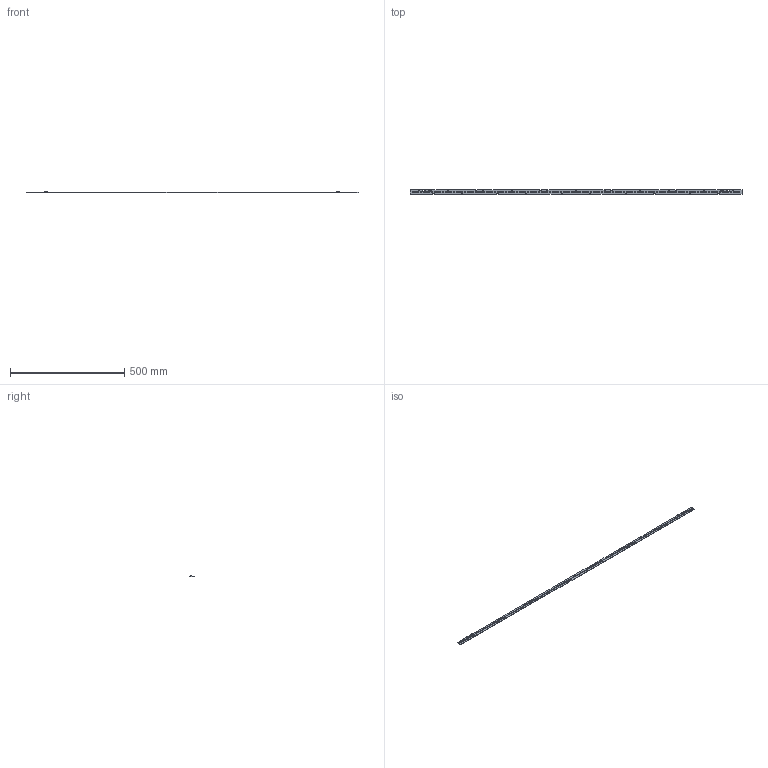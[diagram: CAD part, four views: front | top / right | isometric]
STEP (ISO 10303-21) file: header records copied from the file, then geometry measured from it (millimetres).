
FILE_DESCRIPTION(/* description */ (''),/* implementation_level */ '2;1');
FILE_NAME(/* name */ '5FT 5500lm HV FC Optical-20160920.stp',/* time_stamp */ '2016-09-20T10:33:37+08:00',/* author */ (''),/* organization */ (''),/* preprocessor_version */ 'ST-DEVELOPER v11',/* originating_system */ 'SIEMENS PLM Software NX 7.5',/* authorisation */ '');
FILE_SCHEMA (('CONFIG_CONTROL_DESIGN'));
Length unit declared in the file: millimetre
Products named in the file (4): LED_SMD_5630-LEMWS59T80_LGIT_20-01-15_0.93; CONNECTOR_SMD_MOLEX-1P_104188_19-06-15_4.25; 5FT 5500lm FC HV_PCB-20160825; 5FT 5500lm HV FC Optical-20160913
Assembly tree (123 placements, depth 2):
  5FT 5500lm HV FC Optical-20160913
    5FT 5500lm FC HV_PCB-20160825
    CONNECTOR_SMD_MOLEX-1P_104188_19-06-15_4.25  x2
    LED_SMD_5630-LEMWS59T80_LGIT_20-01-15_0.93  x120
Bounding box: 1450 x 20 x 5.85 mm (x, y, z)
Volume: 47738.4 mm3; surface area: 68236.7 mm2
Topology: 123 solids, 123 shells, 5184 faces, 14372 edges, 9560 vertices
Faces by surface type: plane 4048, cylinder 1110, bspline 14, torus 8, sphere 4
Entity records: 16684 total; most frequent: CARTESIAN_POINT 2583, DIRECTION 2240, ORIENTED_EDGE 2114, EDGE_CURVE 1057, LINE 814, VECTOR 814, AXIS2_PLACEMENT_3D 713, VERTEX_POINT 694
